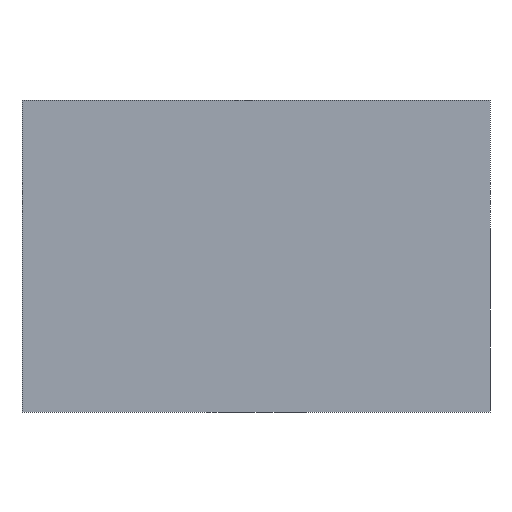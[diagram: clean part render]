
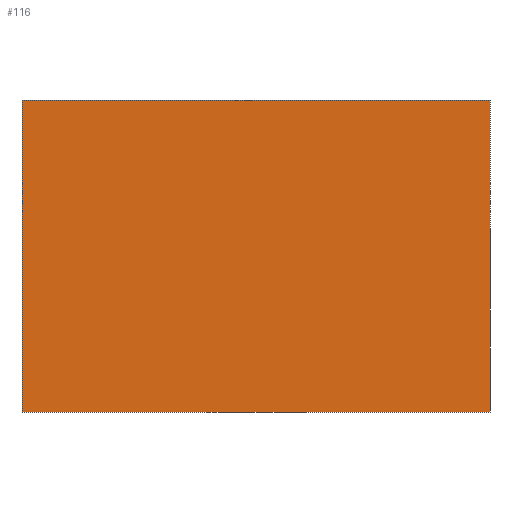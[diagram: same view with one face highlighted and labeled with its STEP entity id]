
A CAD part, front view. The second image highlights one B-rep face of the part: STEP entity #116.
In plain terms, the highlighted planar face has unit normal (0, -1, 0).
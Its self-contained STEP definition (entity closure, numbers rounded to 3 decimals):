
#109=FACE_OUTER_BOUND('',#211,.T.);
#116=ADVANCED_FACE('',(#109),#134,.T.);
#134=PLANE('',#384);
#141=LINE('',#499,#157);
#146=LINE('',#520,#162);
#150=LINE('',#529,#166);
#151=LINE('',#530,#167);
#157=VECTOR('',#414,1.);
#162=VECTOR('',#433,1.);
#166=VECTOR('',#439,1.);
#167=VECTOR('',#440,1.);
#211=EDGE_LOOP('',(#256,#257,#258,#259));
#256=ORIENTED_EDGE('',*,*,#346,.T.);
#257=ORIENTED_EDGE('',*,*,#342,.T.);
#258=ORIENTED_EDGE('',*,*,#347,.F.);
#259=ORIENTED_EDGE('',*,*,#332,.T.);
#304=VERTEX_POINT('',#494);
#306=VERTEX_POINT('',#498);
#316=VERTEX_POINT('',#521);
#317=VERTEX_POINT('',#522);
#332=EDGE_CURVE('',#304,#306,#141,.T.);
#342=EDGE_CURVE('',#316,#317,#146,.T.);
#346=EDGE_CURVE('',#306,#316,#150,.T.);
#347=EDGE_CURVE('',#304,#317,#151,.T.);
#384=AXIS2_PLACEMENT_3D('',#531,#441,#442);
#414=DIRECTION('',(1.,0.,0.));
#433=DIRECTION('',(-1.,0.,0.));
#439=DIRECTION('',(0.,0.,1.));
#440=DIRECTION('',(0.,0.,1.));
#441=DIRECTION('',(0.,-1.,0.));
#442=DIRECTION('',(0.,0.,-1.));
#494=CARTESIAN_POINT('',(0.,0.,0.));
#498=CARTESIAN_POINT('',(45.,0.,0.));
#499=CARTESIAN_POINT('',(22.5,0.,0.));
#520=CARTESIAN_POINT('',(22.5,0.,30.));
#521=CARTESIAN_POINT('',(45.,0.,30.));
#522=CARTESIAN_POINT('',(0.,0.,30.));
#529=CARTESIAN_POINT('',(45.,0.,0.));
#530=CARTESIAN_POINT('',(0.,0.,0.));
#531=CARTESIAN_POINT('',(22.5,0.,0.));
